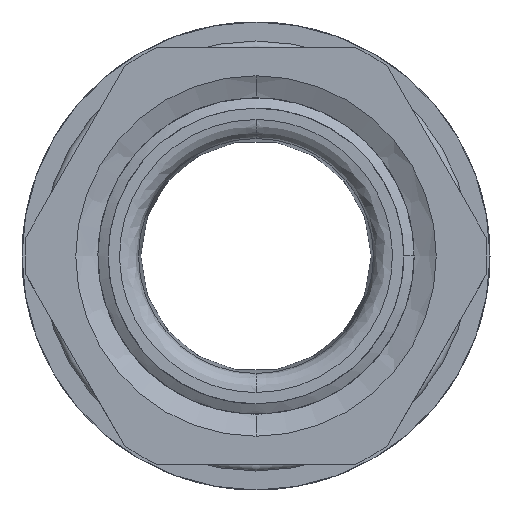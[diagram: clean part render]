
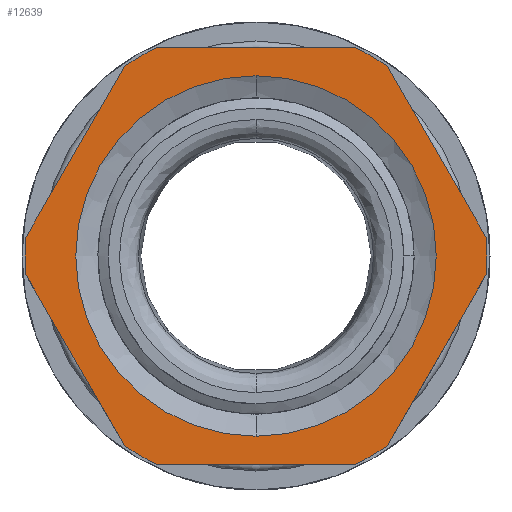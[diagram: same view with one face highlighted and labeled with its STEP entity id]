
A CAD part, front view. The second image highlights one B-rep face of the part: STEP entity #12639.
In plain terms, the highlighted planar face has unit normal (0, -1, 0).
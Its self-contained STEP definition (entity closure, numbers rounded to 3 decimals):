
#12 = VERTEX_POINT ( 'NONE', #11906 ) ;
#22 = VERTEX_POINT ( 'NONE', #11896 ) ;
#28 = VERTEX_POINT ( 'NONE', #8463 ) ;
#42 = VERTEX_POINT ( 'NONE', #838 ) ;
#51 = VERTEX_POINT ( 'NONE', #847 ) ;
#440 = VERTEX_POINT ( 'NONE', #1236 ) ;
#444 = VERTEX_POINT ( 'NONE', #1240 ) ;
#529 = VERTEX_POINT ( 'NONE', #1325 ) ;
#542 = VERTEX_POINT ( 'NONE', #1338 ) ;
#759 = VERTEX_POINT ( 'NONE', #1555 ) ;
#760 = VERTEX_POINT ( 'NONE', #1556 ) ;
#778 = VERTEX_POINT ( 'NONE', #1574 ) ;
#838 = CARTESIAN_POINT ( 'NONE',  ( 7.798, 11., -16.5 ) ) ;
#847 = CARTESIAN_POINT ( 'NONE',  ( -18.189, 11., -1.497 ) ) ;
#1236 = CARTESIAN_POINT ( 'NONE',  ( 18.189, 11., 1.497 ) ) ;
#1240 = CARTESIAN_POINT ( 'NONE',  ( -10.39, 11., 15.003 ) ) ;
#1325 = CARTESIAN_POINT ( 'NONE',  ( 18.189, 11., -1.497 ) ) ;
#1338 = CARTESIAN_POINT ( 'NONE',  ( 10.39, 11., -15.003 ) ) ;
#1555 = CARTESIAN_POINT ( 'NONE',  ( 10.39, 11., 15.003 ) ) ;
#1556 = CARTESIAN_POINT ( 'NONE',  ( -18.189, 11., 1.497 ) ) ;
#1574 = CARTESIAN_POINT ( 'NONE',  ( 7.798, 11., 16.5 ) ) ;
#4980 = CARTESIAN_POINT ( 'NONE',  ( 0., 11., -14.25 ) ) ;
#8463 = CARTESIAN_POINT ( 'NONE',  ( -7.798, 11., -16.5 ) ) ;
#11343 = VERTEX_POINT ( 'NONE', #4980 ) ;
#11896 = CARTESIAN_POINT ( 'NONE',  ( -10.39, 11., -15.003 ) ) ;
#11906 = CARTESIAN_POINT ( 'NONE',  ( -7.798, 11., 16.5 ) ) ;
#12505 = EDGE_LOOP ( 'NONE', ( #21300, #21302 ) ) ;
#12515 = EDGE_LOOP ( 'NONE', ( #21281, #21282, #21284, #21286, #21287, #21289, #21291, #21292, #21294, #21295, #21297, #21299 ) ) ;
#12605 = VERTEX_POINT ( 'NONE', #18687 ) ;
#12639 = ADVANCED_FACE ( 'NONE', ( #20906, #20925 ), #19371, .T. ) ;
#13047 = CIRCLE ( 'NONE', #13623, 14.25 ) ;
#13623 = AXIS2_PLACEMENT_3D ( 'NONE', #15119, #15126, #15128 ) ;
#13666 = AXIS2_PLACEMENT_3D ( 'NONE', #15200, #15210, #15212 ) ;
#13670 = AXIS2_PLACEMENT_3D ( 'NONE', #15226, #15451, #15453 ) ;
#13676 = AXIS2_PLACEMENT_3D ( 'NONE', #15484, #15487, #15489 ) ;
#13683 = AXIS2_PLACEMENT_3D ( 'NONE', #15507, #15703, #15705 ) ;
#13685 = AXIS2_PLACEMENT_3D ( 'NONE', #15497, #15715, #15717 ) ;
#13689 = AXIS2_PLACEMENT_3D ( 'NONE', #15740, #15748, #15750 ) ;
#13691 = AXIS2_PLACEMENT_3D ( 'NONE', #15734, #15757, #15758 ) ;
#15119 = CARTESIAN_POINT ( 'NONE',  ( 0., 11., 0. ) ) ;
#15126 = DIRECTION ( 'NONE',  ( 0., -1., 0. ) ) ;
#15128 = DIRECTION ( 'NONE',  ( 0., 0., -1. ) ) ;
#15200 = CARTESIAN_POINT ( 'NONE',  ( 0., 11., 0. ) ) ;
#15210 = DIRECTION ( 'NONE',  ( 0., -1., 0. ) ) ;
#15212 = DIRECTION ( 'NONE',  ( 0., 0., -1. ) ) ;
#15226 = CARTESIAN_POINT ( 'NONE',  ( 0., 11., 0. ) ) ;
#15442 = CARTESIAN_POINT ( 'NONE',  ( -10.39, 11., 15.003 ) ) ;
#15444 = DIRECTION ( 'NONE',  ( -0.5, 0., -0.866 ) ) ;
#15451 = DIRECTION ( 'NONE',  ( 0., -1., 0. ) ) ;
#15453 = DIRECTION ( 'NONE',  ( 0., 0., -1. ) ) ;
#15460 = CARTESIAN_POINT ( 'NONE',  ( 18.189, 11., 1.497 ) ) ;
#15466 = CARTESIAN_POINT ( 'NONE',  ( 10.39, 11., -15.003 ) ) ;
#15468 = DIRECTION ( 'NONE',  ( 0.5, 0., 0.866 ) ) ;
#15477 = DIRECTION ( 'NONE',  ( -0.5, 0., 0.866 ) ) ;
#15479 = CARTESIAN_POINT ( 'NONE',  ( 14.25, 11., 16.5 ) ) ;
#15484 = CARTESIAN_POINT ( 'NONE',  ( 0., 11., 0. ) ) ;
#15487 = DIRECTION ( 'NONE',  ( 0., -1., 0. ) ) ;
#15489 = DIRECTION ( 'NONE',  ( 0., 0., -1. ) ) ;
#15497 = CARTESIAN_POINT ( 'NONE',  ( 0., 11., 0. ) ) ;
#15500 = DIRECTION ( 'NONE',  ( -1., 0., 0. ) ) ;
#15507 = CARTESIAN_POINT ( 'NONE',  ( 0., 11., 0. ) ) ;
#15703 = DIRECTION ( 'NONE',  ( 0., -1., 0. ) ) ;
#15705 = DIRECTION ( 'NONE',  ( 0., 0., -1. ) ) ;
#15712 = CARTESIAN_POINT ( 'NONE',  ( 14.25, 11., -16.5 ) ) ;
#15715 = DIRECTION ( 'NONE',  ( 0., -1., 0. ) ) ;
#15717 = DIRECTION ( 'NONE',  ( 0., 0., -1. ) ) ;
#15725 = CARTESIAN_POINT ( 'NONE',  ( -18.189, 11., -1.497 ) ) ;
#15727 = DIRECTION ( 'NONE',  ( 0.5, 0., -0.866 ) ) ;
#15734 = CARTESIAN_POINT ( 'NONE',  ( 0., 11., 0. ) ) ;
#15740 = CARTESIAN_POINT ( 'NONE',  ( 0., 11., 0. ) ) ;
#15743 = DIRECTION ( 'NONE',  ( 1., 0., 0. ) ) ;
#15748 = DIRECTION ( 'NONE',  ( 0., -1., 0. ) ) ;
#15750 = DIRECTION ( 'NONE',  ( 0., 0., -1. ) ) ;
#15757 = DIRECTION ( 'NONE',  ( 0., -1., 0. ) ) ;
#15758 = DIRECTION ( 'NONE',  ( 0., 0., -1. ) ) ;
#17553 = EDGE_CURVE ( 'NONE', #11343, #12605, #13047, .T. ) ;
#18018 = EDGE_CURVE ( 'NONE', #529, #440, #24286, .T. ) ;
#18023 = EDGE_CURVE ( 'NONE', #444, #760, #24284, .T. ) ;
#18025 = EDGE_CURVE ( 'NONE', #42, #542, #24294, .T. ) ;
#18028 = EDGE_CURVE ( 'NONE', #542, #529, #24297, .T. ) ;
#18030 = EDGE_CURVE ( 'NONE', #440, #759, #24290, .T. ) ;
#18032 = EDGE_CURVE ( 'NONE', #759, #778, #24307, .T. ) ;
#18034 = EDGE_CURVE ( 'NONE', #778, #12, #24306, .T. ) ;
#18038 = EDGE_CURVE ( 'NONE', #12, #444, #24317, .T. ) ;
#18040 = EDGE_CURVE ( 'NONE', #760, #51, #24320, .T. ) ;
#18042 = EDGE_CURVE ( 'NONE', #51, #22, #24321, .T. ) ;
#18045 = EDGE_CURVE ( 'NONE', #28, #42, #24326, .T. ) ;
#18046 = EDGE_CURVE ( 'NONE', #22, #28, #24330, .T. ) ;
#18048 = EDGE_CURVE ( 'NONE', #12605, #11343, #24332, .T. ) ;
#18687 = CARTESIAN_POINT ( 'NONE',  ( 0., 11., 14.25 ) ) ;
#19370 = CARTESIAN_POINT ( 'NONE',  ( 14.25, 11., 0. ) ) ;
#19371 = PLANE ( 'NONE',  #23871 ) ;
#19373 = DIRECTION ( 'NONE',  ( 0., -1., 0. ) ) ;
#19374 = DIRECTION ( 'NONE',  ( 0., 0., -1. ) ) ;
#20906 = FACE_OUTER_BOUND ( 'NONE', #12515, .T. ) ;
#20925 = FACE_BOUND ( 'NONE', #12505, .T. ) ;
#21281 = ORIENTED_EDGE ( 'NONE', *, *, #18046, .T. ) ;
#21282 = ORIENTED_EDGE ( 'NONE', *, *, #18045, .T. ) ;
#21284 = ORIENTED_EDGE ( 'NONE', *, *, #18025, .T. ) ;
#21286 = ORIENTED_EDGE ( 'NONE', *, *, #18028, .T. ) ;
#21287 = ORIENTED_EDGE ( 'NONE', *, *, #18018, .T. ) ;
#21289 = ORIENTED_EDGE ( 'NONE', *, *, #18030, .T. ) ;
#21291 = ORIENTED_EDGE ( 'NONE', *, *, #18032, .T. ) ;
#21292 = ORIENTED_EDGE ( 'NONE', *, *, #18034, .T. ) ;
#21294 = ORIENTED_EDGE ( 'NONE', *, *, #18038, .T. ) ;
#21295 = ORIENTED_EDGE ( 'NONE', *, *, #18023, .T. ) ;
#21297 = ORIENTED_EDGE ( 'NONE', *, *, #18040, .T. ) ;
#21299 = ORIENTED_EDGE ( 'NONE', *, *, #18042, .T. ) ;
#21300 = ORIENTED_EDGE ( 'NONE', *, *, #17553, .F. ) ;
#21302 = ORIENTED_EDGE ( 'NONE', *, *, #18048, .F. ) ;
#23871 = AXIS2_PLACEMENT_3D ( 'NONE', #19370, #19373, #19374 ) ;
#24284 = LINE ( 'NONE', #15442, #24289 ) ;
#24286 = CIRCLE ( 'NONE', #13666, 18.25 ) ;
#24289 = VECTOR ( 'NONE', #15444, 1000. ) ;
#24290 = LINE ( 'NONE', #15460, #24301 ) ;
#24294 = CIRCLE ( 'NONE', #13670, 18.25 ) ;
#24297 = LINE ( 'NONE', #15466, #24298 ) ;
#24298 = VECTOR ( 'NONE', #15468, 1000. ) ;
#24301 = VECTOR ( 'NONE', #15477, 1000. ) ;
#24306 = LINE ( 'NONE', #15479, #24308 ) ;
#24307 = CIRCLE ( 'NONE', #13676, 18.25 ) ;
#24308 = VECTOR ( 'NONE', #15500, 1000. ) ;
#24315 = VECTOR ( 'NONE', #15743, 1000. ) ;
#24317 = CIRCLE ( 'NONE', #13683, 18.25 ) ;
#24320 = CIRCLE ( 'NONE', #13685, 18.25 ) ;
#24321 = LINE ( 'NONE', #15725, #24322 ) ;
#24322 = VECTOR ( 'NONE', #15727, 1000. ) ;
#24326 = LINE ( 'NONE', #15712, #24315 ) ;
#24330 = CIRCLE ( 'NONE', #13689, 18.25 ) ;
#24332 = CIRCLE ( 'NONE', #13691, 14.25 ) ;
